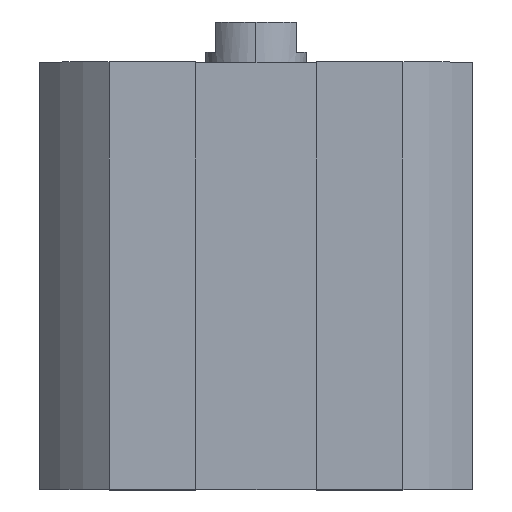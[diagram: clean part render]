
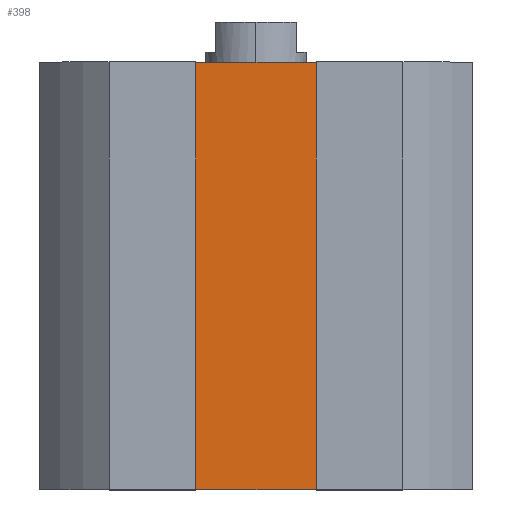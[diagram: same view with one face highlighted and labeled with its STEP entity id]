
A CAD part, top view. The second image highlights one B-rep face of the part: STEP entity #398.
In plain terms, the highlighted planar face has unit normal (0, 0, 1).
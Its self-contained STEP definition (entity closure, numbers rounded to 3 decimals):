
#4 = VECTOR ( 'NONE', #133, 1000. ) ;
#26 = CARTESIAN_POINT ( 'NONE',  ( -7.7, -42.5, 14. ) ) ;
#133 = DIRECTION ( 'NONE',  ( 1., 0., 0. ) ) ;
#398 = ADVANCED_FACE ( 'NONE', ( #1752 ), #444, .T. ) ;
#444 = PLANE ( 'NONE',  #2091 ) ;
#472 = CARTESIAN_POINT ( 'NONE',  ( 7.7, 0., 14. ) ) ;
#554 = LINE ( 'NONE', #26, #2422 ) ;
#678 = CARTESIAN_POINT ( 'NONE',  ( 0., -42.5, 14. ) ) ;
#765 = VECTOR ( 'NONE', #1196, 1000. ) ;
#860 = EDGE_CURVE ( 'NONE', #2489, #2264, #1584, .T. ) ;
#901 = CARTESIAN_POINT ( 'NONE',  ( -7.7, 0., 14. ) ) ;
#942 = ORIENTED_EDGE ( 'NONE', *, *, #2116, .T. ) ;
#998 = CARTESIAN_POINT ( 'NONE',  ( 0., 0., 14. ) ) ;
#1138 = EDGE_LOOP ( 'NONE', ( #1559, #1228, #2672, #942 ) ) ;
#1196 = DIRECTION ( 'NONE',  ( 1., 0., 0. ) ) ;
#1215 = EDGE_CURVE ( 'NONE', #2489, #2658, #554, .T. ) ;
#1228 = ORIENTED_EDGE ( 'NONE', *, *, #1215, .F. ) ;
#1299 = VERTEX_POINT ( 'NONE', #472 ) ;
#1373 = CARTESIAN_POINT ( 'NONE',  ( 7.7, -42.5, 14. ) ) ;
#1413 = DIRECTION ( 'NONE',  ( 0., 1., 0. ) ) ;
#1534 = DIRECTION ( 'NONE',  ( 0., 1., 0. ) ) ;
#1559 = ORIENTED_EDGE ( 'NONE', *, *, #2207, .F. ) ;
#1563 = DIRECTION ( 'NONE',  ( 0., 0., 1. ) ) ;
#1584 = LINE ( 'NONE', #2511, #765 ) ;
#1752 = FACE_OUTER_BOUND ( 'NONE', #1138, .T. ) ;
#1766 = CARTESIAN_POINT ( 'NONE',  ( -7.7, -42.5, 14. ) ) ;
#1774 = LINE ( 'NONE', #998, #4 ) ;
#1856 = VECTOR ( 'NONE', #1413, 1000. ) ;
#2091 = AXIS2_PLACEMENT_3D ( 'NONE', #678, #1563, #2225 ) ;
#2116 = EDGE_CURVE ( 'NONE', #2264, #1299, #2385, .T. ) ;
#2207 = EDGE_CURVE ( 'NONE', #2658, #1299, #1774, .T. ) ;
#2225 = DIRECTION ( 'NONE',  ( 1., 0., 0. ) ) ;
#2264 = VERTEX_POINT ( 'NONE', #2751 ) ;
#2385 = LINE ( 'NONE', #1373, #1856 ) ;
#2422 = VECTOR ( 'NONE', #1534, 1000. ) ;
#2489 = VERTEX_POINT ( 'NONE', #1766 ) ;
#2511 = CARTESIAN_POINT ( 'NONE',  ( 0., -42.5, 14. ) ) ;
#2658 = VERTEX_POINT ( 'NONE', #901 ) ;
#2672 = ORIENTED_EDGE ( 'NONE', *, *, #860, .T. ) ;
#2751 = CARTESIAN_POINT ( 'NONE',  ( 7.7, -42.5, 14. ) ) ;
